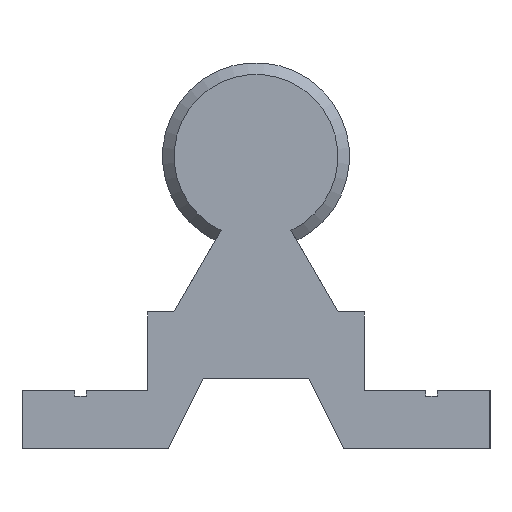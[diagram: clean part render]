
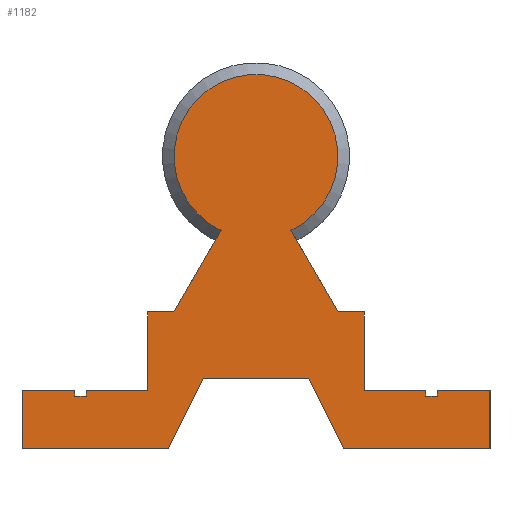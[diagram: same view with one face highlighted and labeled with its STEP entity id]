
A CAD part, left-side view. The second image highlights one B-rep face of the part: STEP entity #1182.
In plain terms, the highlighted planar face has unit normal (-1, 0, 0).
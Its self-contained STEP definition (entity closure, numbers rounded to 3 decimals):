
#28=LINE('',#1749,#128);
#29=LINE('',#1751,#129);
#30=LINE('',#1753,#130);
#31=LINE('',#1755,#131);
#32=LINE('',#1757,#132);
#33=LINE('',#1759,#133);
#34=LINE('',#1761,#134);
#35=LINE('',#1763,#135);
#36=LINE('',#1765,#136);
#37=LINE('',#1767,#137);
#38=LINE('',#1769,#138);
#39=LINE('',#1771,#139);
#40=LINE('',#1773,#140);
#41=LINE('',#1775,#141);
#42=LINE('',#1777,#142);
#43=LINE('',#1779,#143);
#44=LINE('',#1781,#144);
#45=LINE('',#1783,#145);
#46=LINE('',#1785,#146);
#47=LINE('',#1787,#147);
#48=LINE('',#1789,#148);
#49=LINE('',#1791,#149);
#50=LINE('',#1792,#150);
#128=VECTOR('',#1397,10.);
#129=VECTOR('',#1398,10.);
#130=VECTOR('',#1399,10.);
#131=VECTOR('',#1400,10.);
#132=VECTOR('',#1401,10.);
#133=VECTOR('',#1402,10.);
#134=VECTOR('',#1403,10.);
#135=VECTOR('',#1404,10.);
#136=VECTOR('',#1405,10.);
#137=VECTOR('',#1406,10.);
#138=VECTOR('',#1407,10.);
#139=VECTOR('',#1408,10.);
#140=VECTOR('',#1409,10.);
#141=VECTOR('',#1410,10.);
#142=VECTOR('',#1411,10.);
#143=VECTOR('',#1412,10.);
#144=VECTOR('',#1413,10.);
#145=VECTOR('',#1414,10.);
#146=VECTOR('',#1415,10.);
#147=VECTOR('',#1416,10.);
#148=VECTOR('',#1417,10.);
#149=VECTOR('',#1418,10.);
#150=VECTOR('',#1419,10.);
#228=PLANE('',#1268);
#272=FACE_OUTER_BOUND('',#336,.T.);
#336=EDGE_LOOP('',(#799,#800,#801,#802,#803,#804,#805,#806,#807,#808,#809,
#810,#811,#812,#813,#814,#815,#816,#817,#818,#819,#820,#821,#822));
#405=CIRCLE('',#1266,7.);
#492=VERTEX_POINT('',#1736);
#493=VERTEX_POINT('',#1740);
#495=VERTEX_POINT('',#1748);
#496=VERTEX_POINT('',#1750);
#497=VERTEX_POINT('',#1752);
#498=VERTEX_POINT('',#1754);
#499=VERTEX_POINT('',#1756);
#500=VERTEX_POINT('',#1758);
#501=VERTEX_POINT('',#1760);
#502=VERTEX_POINT('',#1762);
#503=VERTEX_POINT('',#1764);
#504=VERTEX_POINT('',#1766);
#505=VERTEX_POINT('',#1768);
#506=VERTEX_POINT('',#1770);
#507=VERTEX_POINT('',#1772);
#508=VERTEX_POINT('',#1774);
#509=VERTEX_POINT('',#1776);
#510=VERTEX_POINT('',#1778);
#511=VERTEX_POINT('',#1780);
#512=VERTEX_POINT('',#1782);
#513=VERTEX_POINT('',#1784);
#514=VERTEX_POINT('',#1786);
#515=VERTEX_POINT('',#1788);
#516=VERTEX_POINT('',#1790);
#610=EDGE_CURVE('',#492,#493,#405,.T.);
#613=EDGE_CURVE('',#493,#495,#28,.T.);
#614=EDGE_CURVE('',#496,#492,#29,.T.);
#615=EDGE_CURVE('',#497,#496,#30,.T.);
#616=EDGE_CURVE('',#498,#497,#31,.T.);
#617=EDGE_CURVE('',#499,#498,#32,.T.);
#618=EDGE_CURVE('',#500,#499,#33,.T.);
#619=EDGE_CURVE('',#501,#500,#34,.T.);
#620=EDGE_CURVE('',#502,#501,#35,.T.);
#621=EDGE_CURVE('',#503,#502,#36,.T.);
#622=EDGE_CURVE('',#504,#503,#37,.T.);
#623=EDGE_CURVE('',#505,#504,#38,.T.);
#624=EDGE_CURVE('',#506,#505,#39,.T.);
#625=EDGE_CURVE('',#507,#506,#40,.T.);
#626=EDGE_CURVE('',#508,#507,#41,.T.);
#627=EDGE_CURVE('',#509,#508,#42,.T.);
#628=EDGE_CURVE('',#510,#509,#43,.T.);
#629=EDGE_CURVE('',#511,#510,#44,.T.);
#630=EDGE_CURVE('',#512,#511,#45,.T.);
#631=EDGE_CURVE('',#513,#512,#46,.T.);
#632=EDGE_CURVE('',#514,#513,#47,.T.);
#633=EDGE_CURVE('',#515,#514,#48,.T.);
#634=EDGE_CURVE('',#516,#515,#49,.T.);
#635=EDGE_CURVE('',#495,#516,#50,.T.);
#799=ORIENTED_EDGE('',*,*,#613,.F.);
#800=ORIENTED_EDGE('',*,*,#610,.F.);
#801=ORIENTED_EDGE('',*,*,#614,.F.);
#802=ORIENTED_EDGE('',*,*,#615,.F.);
#803=ORIENTED_EDGE('',*,*,#616,.F.);
#804=ORIENTED_EDGE('',*,*,#617,.F.);
#805=ORIENTED_EDGE('',*,*,#618,.F.);
#806=ORIENTED_EDGE('',*,*,#619,.F.);
#807=ORIENTED_EDGE('',*,*,#620,.F.);
#808=ORIENTED_EDGE('',*,*,#621,.F.);
#809=ORIENTED_EDGE('',*,*,#622,.F.);
#810=ORIENTED_EDGE('',*,*,#623,.F.);
#811=ORIENTED_EDGE('',*,*,#624,.F.);
#812=ORIENTED_EDGE('',*,*,#625,.F.);
#813=ORIENTED_EDGE('',*,*,#626,.F.);
#814=ORIENTED_EDGE('',*,*,#627,.F.);
#815=ORIENTED_EDGE('',*,*,#628,.F.);
#816=ORIENTED_EDGE('',*,*,#629,.F.);
#817=ORIENTED_EDGE('',*,*,#630,.F.);
#818=ORIENTED_EDGE('',*,*,#631,.F.);
#819=ORIENTED_EDGE('',*,*,#632,.F.);
#820=ORIENTED_EDGE('',*,*,#633,.F.);
#821=ORIENTED_EDGE('',*,*,#634,.F.);
#822=ORIENTED_EDGE('',*,*,#635,.F.);
#1182=ADVANCED_FACE('',(#272),#228,.F.);
#1266=AXIS2_PLACEMENT_3D('',#1741,#1391,#1392);
#1268=AXIS2_PLACEMENT_3D('',#1747,#1395,#1396);
#1391=DIRECTION('center_axis',(1.,0.,0.));
#1392=DIRECTION('ref_axis',(0.,1.,0.));
#1395=DIRECTION('center_axis',(1.,0.,0.));
#1396=DIRECTION('ref_axis',(0.,0.,-1.));
#1397=DIRECTION('',(0.,-0.5,-0.866));
#1398=DIRECTION('',(0.,-0.5,0.866));
#1399=DIRECTION('',(0.,-1.,0.));
#1400=DIRECTION('',(0.,0.,1.));
#1401=DIRECTION('',(0.,-1.,0.));
#1402=DIRECTION('',(0.,0.,1.));
#1403=DIRECTION('',(0.,-1.,0.));
#1404=DIRECTION('',(0.,0.,-1.));
#1405=DIRECTION('',(0.,-1.,0.));
#1406=DIRECTION('',(0.,0.,1.));
#1407=DIRECTION('',(0.,1.,0.));
#1408=DIRECTION('',(0.,0.447,-0.894));
#1409=DIRECTION('',(0.,1.,0.));
#1410=DIRECTION('',(0.,0.447,0.894));
#1411=DIRECTION('',(0.,1.,0.));
#1412=DIRECTION('',(0.,0.,-1.));
#1413=DIRECTION('',(0.,-1.,0.));
#1414=DIRECTION('',(0.,0.,1.));
#1415=DIRECTION('',(0.,-1.,0.));
#1416=DIRECTION('',(0.,0.,-1.));
#1417=DIRECTION('',(0.,-1.,0.));
#1418=DIRECTION('',(0.,0.,-1.));
#1419=DIRECTION('',(0.,-1.,0.));
#1736=CARTESIAN_POINT('',(0.,2.986,18.669));
#1740=CARTESIAN_POINT('',(0.,-2.986,18.669));
#1741=CARTESIAN_POINT('Origin',(0.,0.,25.));
#1747=CARTESIAN_POINT('Origin',(0.,0.,25.));
#1748=CARTESIAN_POINT('',(0.,-7.009,11.7));
#1749=CARTESIAN_POINT('',(0.,-1.492,21.255));
#1750=CARTESIAN_POINT('',(0.,7.009,11.7));
#1751=CARTESIAN_POINT('',(0.,3.253,18.205));
#1752=CARTESIAN_POINT('',(0.,9.25,11.7));
#1753=CARTESIAN_POINT('',(0.,9.25,11.7));
#1754=CARTESIAN_POINT('',(0.,9.25,5.));
#1755=CARTESIAN_POINT('',(0.,9.25,5.));
#1756=CARTESIAN_POINT('',(0.,14.5,5.));
#1757=CARTESIAN_POINT('',(0.,14.5,5.));
#1758=CARTESIAN_POINT('',(0.,14.5,4.5));
#1759=CARTESIAN_POINT('',(0.,14.5,4.5));
#1760=CARTESIAN_POINT('',(0.,15.5,4.5));
#1761=CARTESIAN_POINT('',(0.,15.5,4.5));
#1762=CARTESIAN_POINT('',(0.,15.5,5.));
#1763=CARTESIAN_POINT('',(0.,15.5,5.));
#1764=CARTESIAN_POINT('',(0.,20.,5.));
#1765=CARTESIAN_POINT('',(0.,20.,5.));
#1766=CARTESIAN_POINT('',(0.,20.,0.));
#1767=CARTESIAN_POINT('',(0.,20.,0.));
#1768=CARTESIAN_POINT('',(0.,7.5,0.));
#1769=CARTESIAN_POINT('',(0.,7.5,0.));
#1770=CARTESIAN_POINT('',(0.,4.5,6.));
#1771=CARTESIAN_POINT('',(0.,4.5,6.));
#1772=CARTESIAN_POINT('',(0.,-4.5,6.));
#1773=CARTESIAN_POINT('',(0.,-4.5,6.));
#1774=CARTESIAN_POINT('',(0.,-7.5,0.));
#1775=CARTESIAN_POINT('',(0.,-7.5,0.));
#1776=CARTESIAN_POINT('',(0.,-20.,0.));
#1777=CARTESIAN_POINT('',(0.,-20.,0.));
#1778=CARTESIAN_POINT('',(0.,-20.,5.));
#1779=CARTESIAN_POINT('',(0.,-20.,5.));
#1780=CARTESIAN_POINT('',(0.,-15.5,5.));
#1781=CARTESIAN_POINT('',(0.,-15.5,5.));
#1782=CARTESIAN_POINT('',(0.,-15.5,4.5));
#1783=CARTESIAN_POINT('',(0.,-15.5,4.5));
#1784=CARTESIAN_POINT('',(0.,-14.5,4.5));
#1785=CARTESIAN_POINT('',(0.,-14.5,4.5));
#1786=CARTESIAN_POINT('',(0.,-14.5,5.));
#1787=CARTESIAN_POINT('',(0.,-14.5,5.));
#1788=CARTESIAN_POINT('',(0.,-9.25,5.));
#1789=CARTESIAN_POINT('',(0.,-9.25,5.));
#1790=CARTESIAN_POINT('',(0.,-9.25,11.7));
#1791=CARTESIAN_POINT('',(0.,-9.25,11.7));
#1792=CARTESIAN_POINT('',(0.,-7.009,11.7));
